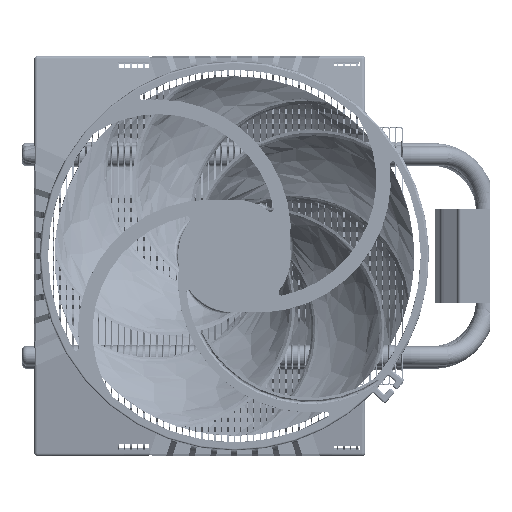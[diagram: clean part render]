
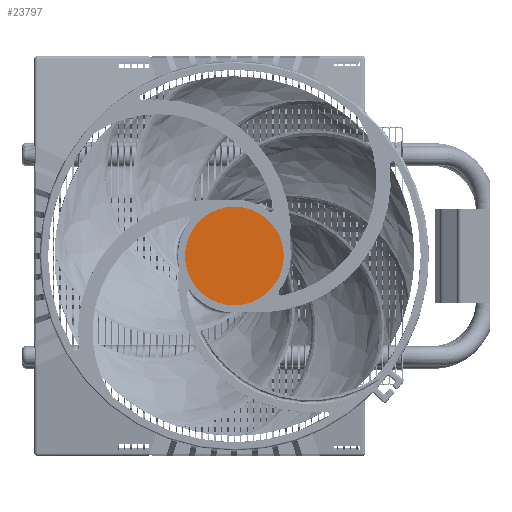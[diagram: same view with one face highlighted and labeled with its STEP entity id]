
A CAD part, left-side view. The second image highlights one B-rep face of the part: STEP entity #23797.
In plain terms, the highlighted planar face has unit normal (-1, 0, 0).
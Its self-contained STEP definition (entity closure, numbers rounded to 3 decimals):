
#4408 = CARTESIAN_POINT ( 'NONE',  ( -76.6, 84.8, 15.3 ) ) ;
#11093 = CARTESIAN_POINT ( 'NONE',  ( -76.6, 84.8, 0. ) ) ;
#19295 = EDGE_CURVE ( 'NONE', #140487, #111182, #22217, .T. ) ;
#22217 = CIRCLE ( 'NONE', #83068, 15.3 ) ;
#23797 = ADVANCED_FACE ( 'NONE', ( #78845 ), #115336, .T. ) ;
#26328 = ORIENTED_EDGE ( 'NONE', *, *, #19295, .T. ) ;
#46758 = AXIS2_PLACEMENT_3D ( 'NONE', #73707, #120865, #143701 ) ;
#49145 = CIRCLE ( 'NONE', #46758, 15.3 ) ;
#54871 = AXIS2_PLACEMENT_3D ( 'NONE', #11093, #81124, #81879 ) ;
#67411 = EDGE_CURVE ( 'NONE', #111182, #140487, #49145, .T. ) ;
#68607 = ORIENTED_EDGE ( 'NONE', *, *, #67411, .T. ) ;
#73707 = CARTESIAN_POINT ( 'NONE',  ( -76.6, 84.8, 0. ) ) ;
#78845 = FACE_OUTER_BOUND ( 'NONE', #109071, .T. ) ;
#79200 = DIRECTION ( 'NONE',  ( 0., 0., 1. ) ) ;
#81124 = DIRECTION ( 'NONE',  ( -1., 0., 0. ) ) ;
#81879 = DIRECTION ( 'NONE',  ( 0., 0., 1. ) ) ;
#83068 = AXIS2_PLACEMENT_3D ( 'NONE', #125611, #100536, #79200 ) ;
#100536 = DIRECTION ( 'NONE',  ( -1., 0., 0. ) ) ;
#109071 = EDGE_LOOP ( 'NONE', ( #26328, #68607 ) ) ;
#111182 = VERTEX_POINT ( 'NONE', #124332 ) ;
#115336 = PLANE ( 'NONE',  #54871 ) ;
#120865 = DIRECTION ( 'NONE',  ( -1., 0., 0. ) ) ;
#124332 = CARTESIAN_POINT ( 'NONE',  ( -76.6, 84.8, -15.3 ) ) ;
#125611 = CARTESIAN_POINT ( 'NONE',  ( -76.6, 84.8, 0. ) ) ;
#140487 = VERTEX_POINT ( 'NONE', #4408 ) ;
#143701 = DIRECTION ( 'NONE',  ( 0., 0., 1. ) ) ;
